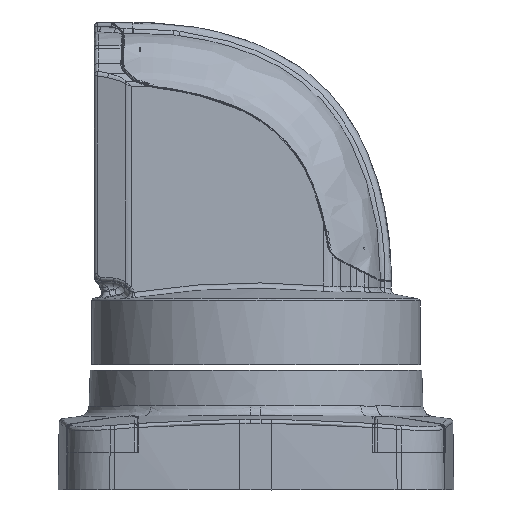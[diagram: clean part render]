
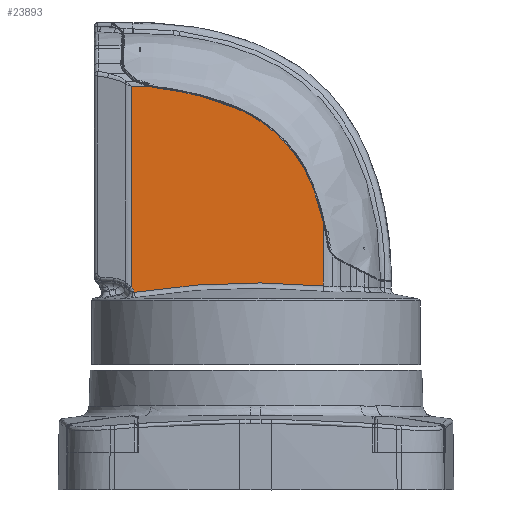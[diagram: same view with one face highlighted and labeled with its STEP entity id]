
A CAD part, top view. The second image highlights one B-rep face of the part: STEP entity #23893.
In plain terms, the highlighted planar face has unit normal (0, 0.007, 1) as drawn and (-0.009, 0, 1) by its records, which use the part's own axes.
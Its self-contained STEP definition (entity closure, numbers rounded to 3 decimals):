
#815 = EDGE_CURVE ( 'NONE', #115639, #251564, #169426, .T. ) ;
#4076 = CARTESIAN_POINT ( 'NONE',  ( 153.836, -88.017, 13.996 ) ) ;
#4097 = CARTESIAN_POINT ( 'NONE',  ( 141.045, -92.012, 13.884 ) ) ;
#4995 = CARTESIAN_POINT ( 'NONE',  ( 149.347, -89.182, 13.957 ) ) ;
#10336 = LINE ( 'NONE', #161391, #233032 ) ;
#12935 = DIRECTION ( 'NONE',  ( 1., 0., 0.009 ) ) ;
#13180 = CARTESIAN_POINT ( 'NONE',  ( 112.494, -120.004, 13.635 ) ) ;
#13803 = VERTEX_POINT ( 'NONE', #83784 ) ;
#14600 = CARTESIAN_POINT ( 'NONE',  ( 112.494, -120.004, 13.635 ) ) ;
#17388 = CARTESIAN_POINT ( 'NONE',  ( 121.271, -105.304, 13.712 ) ) ;
#18296 = CARTESIAN_POINT ( 'NONE',  ( 130.529, -97.226, 13.792 ) ) ;
#19022 = ORIENTED_EDGE ( 'NONE', *, *, #144790, .T. ) ;
#19793 = LINE ( 'NONE', #128890, #228926 ) ;
#23893 = ADVANCED_FACE ( 'NONE', ( #190942 ), #233354, .T. ) ;
#26767 = CARTESIAN_POINT ( 'NONE',  ( 146.868, -89.899, 13.935 ) ) ;
#26959 = DIRECTION ( 'NONE',  ( 0., -1., 0. ) ) ;
#27690 = CARTESIAN_POINT ( 'NONE',  ( 149.135, -89.242, 13.955 ) ) ;
#29481 = CARTESIAN_POINT ( 'NONE',  ( 112.494, -120.004, 13.635 ) ) ;
#35463 = DIRECTION ( 'NONE',  ( -0.009, 0., 1. ) ) ;
#36908 = EDGE_CURVE ( 'NONE', #269529, #147743, #279588, .T. ) ;
#40265 = CARTESIAN_POINT ( 'NONE',  ( 143.044, -91.233, 13.901 ) ) ;
#40667 = CARTESIAN_POINT ( 'NONE',  ( 179.891, -158.219, 14.223 ) ) ;
#54276 = VERTEX_POINT ( 'NONE', #157268 ) ;
#59861 = CARTESIAN_POINT ( 'NONE',  ( 117.274, -110.392, 13.677 ) ) ;
#60342 = CARTESIAN_POINT ( 'NONE',  ( 178.538, -159.142, 14.211 ) ) ;
#65982 = B_SPLINE_CURVE_WITH_KNOTS ( 'NONE', 3,
 ( #136124, #133336, #240780, #4097 ),
 .UNSPECIFIED., .F., .F.,
 ( 4, 4 ),
 ( 0., 1. ),
 .UNSPECIFIED. ) ;
#67923 = ORIENTED_EDGE ( 'NONE', *, *, #815, .F. ) ;
#71038 = CARTESIAN_POINT ( 'NONE',  ( 149.044, -89.269, 13.954 ) ) ;
#72961 = B_SPLINE_CURVE_WITH_KNOTS ( 'NONE', 3,
 ( #86382, #253162, #18296, #17388, #59861, #123922, #78725, #14600 ),
 .UNSPECIFIED., .F., .F.,
 ( 4, 2, 2, 4 ),
 ( 0., 0.428, 0.895, 1. ),
 .UNSPECIFIED. ) ;
#75009 = DIRECTION ( 'NONE',  ( -0.996, 0.09, -0.009 ) ) ;
#78725 = CARTESIAN_POINT ( 'NONE',  ( 113.047, -118.672, 13.64 ) ) ;
#83784 = CARTESIAN_POINT ( 'NONE',  ( 104.365, -159.142, 13.564 ) ) ;
#84853 = VERTEX_POINT ( 'NONE', #238649 ) ;
#84910 = CARTESIAN_POINT ( 'NONE',  ( 180.65, -157.91, 14.23 ) ) ;
#85664 = ORIENTED_EDGE ( 'NONE', *, *, #257481, .T. ) ;
#86382 = CARTESIAN_POINT ( 'NONE',  ( 141.045, -92.012, 13.884 ) ) ;
#88350 = ORIENTED_EDGE ( 'NONE', *, *, #232188, .F. ) ;
#88980 = CARTESIAN_POINT ( 'NONE',  ( 143.044, -91.233, 13.901 ) ) ;
#93573 = CARTESIAN_POINT ( 'NONE',  ( 108.59, -129.394, 13.601 ) ) ;
#94438 = B_SPLINE_CURVE_WITH_KNOTS ( 'NONE', 3,
 ( #241692, #4076, #112495, #263406, #220928, #4995, #27690, #71038, #114354, #155882, #26767, #177544, #88980 ),
 .UNSPECIFIED., .F., .F.,
 ( 4, 1, 1, 1, 1, 1, 2, 2, 4 ),
 ( 0., 0.25, 0.375, 0.438, 0.469, 0.484, 0.492, 0.5, 1. ),
 .UNSPECIFIED. ) ;
#97268 = DIRECTION ( 'NONE',  ( -1., 0., -0.009 ) ) ;
#99743 = EDGE_CURVE ( 'NONE', #84853, #13803, #19793, .T. ) ;
#107874 = ORIENTED_EDGE ( 'NONE', *, *, #264201, .T. ) ;
#111080 = VERTEX_POINT ( 'NONE', #185497 ) ;
#112495 = CARTESIAN_POINT ( 'NONE',  ( 152.344, -88.372, 13.983 ) ) ;
#114354 = CARTESIAN_POINT ( 'NONE',  ( 148.983, -89.286, 13.953 ) ) ;
#115639 = VERTEX_POINT ( 'NONE', #223296 ) ;
#117553 = CARTESIAN_POINT ( 'NONE',  ( 154.84, -87.795, 14.005 ) ) ;
#123280 = ORIENTED_EDGE ( 'NONE', *, *, #216793, .F. ) ;
#123922 = CARTESIAN_POINT ( 'NONE',  ( 113.657, -117.365, 13.645 ) ) ;
#126285 = B_SPLINE_CURVE_WITH_KNOTS ( 'NONE', 3,
 ( #276433, #148202, #256627, #145460 ),
 .UNSPECIFIED., .F., .F.,
 ( 4, 4 ),
 ( 0., 1. ),
 .UNSPECIFIED. ) ;
#128890 = CARTESIAN_POINT ( 'NONE',  ( 104.365, -152.434, 13.564 ) ) ;
#130934 = ORIENTED_EDGE ( 'NONE', *, *, #155785, .F. ) ;
#133336 = CARTESIAN_POINT ( 'NONE',  ( 142.376, -91.49, 13.896 ) ) ;
#133836 = VERTEX_POINT ( 'NONE', #277942 ) ;
#136124 = CARTESIAN_POINT ( 'NONE',  ( 143.044, -91.233, 13.901 ) ) ;
#139927 = ORIENTED_EDGE ( 'NONE', *, *, #99743, .T. ) ;
#144790 = EDGE_CURVE ( 'NONE', #163721, #111080, #65982, .T. ) ;
#145460 = CARTESIAN_POINT ( 'NONE',  ( 104.365, -152.434, 13.564 ) ) ;
#147743 = VERTEX_POINT ( 'NONE', #231222 ) ;
#148202 = CARTESIAN_POINT ( 'NONE',  ( 104.79, -150.416, 13.568 ) ) ;
#155785 = EDGE_CURVE ( 'NONE', #251564, #13803, #10336, .T. ) ;
#155882 = CARTESIAN_POINT ( 'NONE',  ( 148.955, -89.294, 13.953 ) ) ;
#157268 = CARTESIAN_POINT ( 'NONE',  ( 154.84, -87.795, 14.005 ) ) ;
#161391 = CARTESIAN_POINT ( 'NONE',  ( 178.538, -159.142, 14.211 ) ) ;
#162696 = CARTESIAN_POINT ( 'NONE',  ( 461.242, -113.445, 16.678 ) ) ;
#163721 = VERTEX_POINT ( 'NONE', #40265 ) ;
#166204 = ORIENTED_EDGE ( 'NONE', *, *, #36908, .T. ) ;
#169426 = B_SPLINE_CURVE_WITH_KNOTS ( 'NONE', 3,
 ( #84910, #40667, #214064, #210422 ),
 .UNSPECIFIED., .F., .F.,
 ( 4, 4 ),
 ( 0., 1. ),
 .UNSPECIFIED. ) ;
#177544 = CARTESIAN_POINT ( 'NONE',  ( 144.909, -90.545, 13.918 ) ) ;
#178437 = CARTESIAN_POINT ( 'NONE',  ( 104.904, -149.394, 13.569 ) ) ;
#185497 = CARTESIAN_POINT ( 'NONE',  ( 141.045, -92.012, 13.884 ) ) ;
#190942 = FACE_OUTER_BOUND ( 'NONE', #233216, .T. ) ;
#192385 = AXIS2_PLACEMENT_3D ( 'NONE', #209846, #35463, #250429 ) ;
#200138 = CARTESIAN_POINT ( 'NONE',  ( 106.035, -139.289, 13.579 ) ) ;
#209846 = CARTESIAN_POINT ( 'NONE',  ( 183.943, -119.631, 14.259 ) ) ;
#210422 = CARTESIAN_POINT ( 'NONE',  ( 178.538, -159.142, 14.211 ) ) ;
#214064 = CARTESIAN_POINT ( 'NONE',  ( 179.18, -158.634, 14.217 ) ) ;
#216793 = EDGE_CURVE ( 'NONE', #133836, #115639, #232862, .T. ) ;
#220928 = CARTESIAN_POINT ( 'NONE',  ( 149.772, -89.061, 13.96 ) ) ;
#223296 = CARTESIAN_POINT ( 'NONE',  ( 180.65, -157.91, 14.23 ) ) ;
#227726 = DIRECTION ( 'NONE',  ( -0.009, 0., 1. ) ) ;
#228926 = VECTOR ( 'NONE', #26959, 1000. ) ;
#231222 = CARTESIAN_POINT ( 'NONE',  ( 104.904, -149.394, 13.569 ) ) ;
#232188 = EDGE_CURVE ( 'NONE', #54276, #133836, #268181, .T. ) ;
#232862 = CIRCLE ( 'NONE', #236019, 284.104 ) ;
#233032 = VECTOR ( 'NONE', #97268, 1000. ) ;
#233216 = EDGE_LOOP ( 'NONE', ( #88350, #275285, #19022, #85664, #166204, #107874, #139927, #130934, #67923, #123280 ) ) ;
#233354 = PLANE ( 'NONE',  #192385 ) ;
#236019 = AXIS2_PLACEMENT_3D ( 'NONE', #162696, #227726, #75009 ) ;
#238649 = CARTESIAN_POINT ( 'NONE',  ( 104.365, -152.434, 13.564 ) ) ;
#240780 = CARTESIAN_POINT ( 'NONE',  ( 141.709, -91.747, 13.89 ) ) ;
#241692 = CARTESIAN_POINT ( 'NONE',  ( 154.84, -87.795, 14.005 ) ) ;
#244610 = VECTOR ( 'NONE', #12935, 1000. ) ;
#245730 = EDGE_CURVE ( 'NONE', #54276, #163721, #94438, .T. ) ;
#250429 = DIRECTION ( 'NONE',  ( 0., -1., 0. ) ) ;
#251564 = VERTEX_POINT ( 'NONE', #60342 ) ;
#253162 = CARTESIAN_POINT ( 'NONE',  ( 135.582, -94.157, 13.837 ) ) ;
#256627 = CARTESIAN_POINT ( 'NONE',  ( 104.613, -151.435, 13.566 ) ) ;
#257481 = EDGE_CURVE ( 'NONE', #111080, #269529, #72961, .T. ) ;
#263406 = CARTESIAN_POINT ( 'NONE',  ( 150.625, -88.825, 13.968 ) ) ;
#264201 = EDGE_CURVE ( 'NONE', #147743, #84853, #126285, .T. ) ;
#268181 = LINE ( 'NONE', #117553, #244610 ) ;
#269529 = VERTEX_POINT ( 'NONE', #13180 ) ;
#275285 = ORIENTED_EDGE ( 'NONE', *, *, #245730, .T. ) ;
#276433 = CARTESIAN_POINT ( 'NONE',  ( 104.904, -149.394, 13.569 ) ) ;
#277942 = CARTESIAN_POINT ( 'NONE',  ( 178.309, -87.795, 14.209 ) ) ;
#279588 = B_SPLINE_CURVE_WITH_KNOTS ( 'NONE', 3,
 ( #29481, #93573, #200138, #178437 ),
 .UNSPECIFIED., .F., .F.,
 ( 4, 4 ),
 ( 0., 1. ),
 .UNSPECIFIED. ) ;
